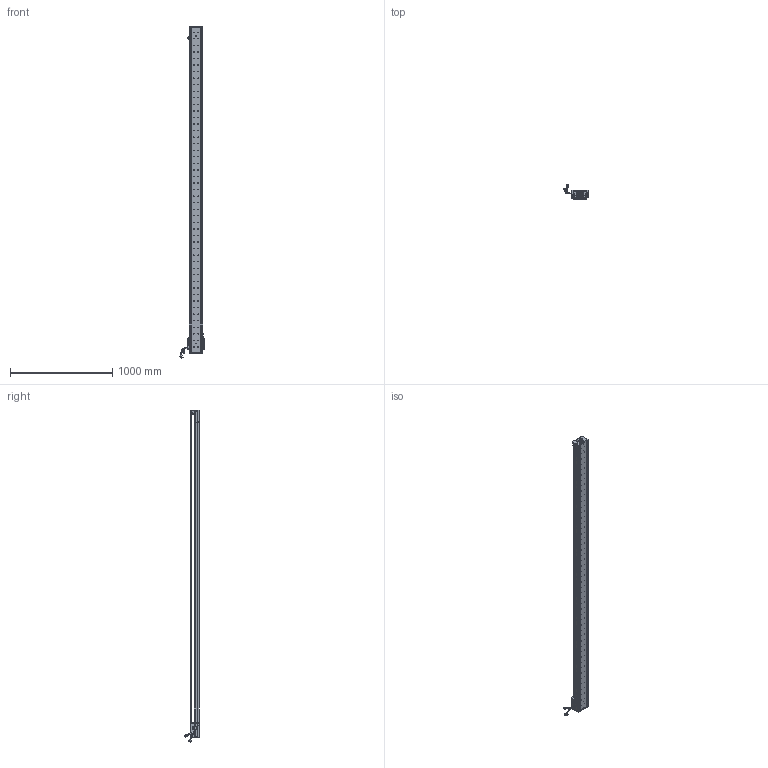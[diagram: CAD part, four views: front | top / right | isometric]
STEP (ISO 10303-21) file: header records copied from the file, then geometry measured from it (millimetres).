
FILE_DESCRIPTION (( 'STEP AP203' ), '1' );
FILE_NAME ('Z1-RY140D-1-L500-B-K.SLDASM_3000.step', '2021-05-17T07:37:35', ( '盈信电脑' ), ( '东莞市道滘镇水果街19号' ), 'SwSTEP 2.0', 'SolidWorks 2016', '' );
FILE_SCHEMA (( 'CONFIG_CONTROL_DESIGN' ));
Length unit declared in the file: millimetre
Products named in the file (36): COVER-Part-1; Z-RY140感应器672光电感应片; SCREW-M1.7; Z1-RY140圉猾敕臏賑輸(21遴); HARNESS; SCREW-M1.6-3; SCREW-M1.6-2; SHIELDPLATE; LABEL; SCREW-M1.6-1; Z1-RY140-L500詩湍100mm遵_3000; PSLH080_PSLF2; SCALE-Part-1; 080黍杅芛假蚾釱21遴; SCALE; Z-RY140詩湍奻揤裔; HOLDER0; SEAL-Part-1; Z-140詩湍傷裔啣; PBU_SHEET; 140雄赽晤鎢ん堤盄; LABEL-Part-1; Z-RY140詩湍狟揤裔; SCALE-Part-2; SEAL; HARNESS-Part-1; Z1-RY140-L500直线电机模组底座_3000; 140-Z-臏賑輸盄裔(21遴); 覜茼ん672; HARNESS-Part-2; SCREW-M1.7-1; COVER; Z1-RY140D-1-L500-B-K.SLDASM_3000; SCREW-M1.6; 榋妏寠巭燃_暯_M2_2; 140蚥薯蝶輸
Assembly tree (41 placements, depth 4):
  Z1-RY140D-1-L500-B-K.SLDASM_3000
    Z1-RY140-L500直线电机模组底座_3000
    Z-RY140感应器672光电感应片
    Z1-RY140圉猾敕臏賑輸(21遴)
    覜茼ん672  x3
    Z1-RY140-L500詩湍100mm遵_3000
    PSLH080_PSLF2
      SCALE
        SCALE-Part-1
        SCALE-Part-2
      HARNESS
        HARNESS-Part-1
        HARNESS-Part-2
      LABEL
        LABEL-Part-1
      COVER
        COVER-Part-1
      SEAL
        SEAL-Part-1
      榋妏寠巭燃_暯_M2_2
      SHIELDPLATE
      SCREW-M1.7
      SCREW-M1.7-1
      PBU_SHEET
      SCREW-M1.6
      SCREW-M1.6-1
      SCREW-M1.6-2
      SCREW-M1.6-3
      HOLDER0
    080黍杅芛假蚾釱21遴
    140-Z-臏賑輸盄裔(21遴)
    Z-140詩湍傷裔啣  x2
    Z-RY140詩湍狟揤裔  x2
    Z-RY140詩湍奻揤裔  x2
    140蚥薯蝶輸  x2
    140雄赽晤鎢ん堤盄
Bounding box: 239.79 x 143.88 x 3240.87 mm (x, y, z)
Volume: 9778982.8 mm3; surface area: 2588948.6 mm2
Topology: 36 solids, 36 shells, 4404 faces, 12083 edges, 7662 vertices
Faces by surface type: cylinder 2444, plane 1428, cone 410, torus 69, bspline 53
Entity records: 142227 total; most frequent: CARTESIAN_POINT 41301, ORIENTED_EDGE 21038, DIRECTION 19107, EDGE_CURVE 10519, AXIS2_PLACEMENT_3D 7100, VERTEX_POINT 6830, LINE 4907, VECTOR 4907
